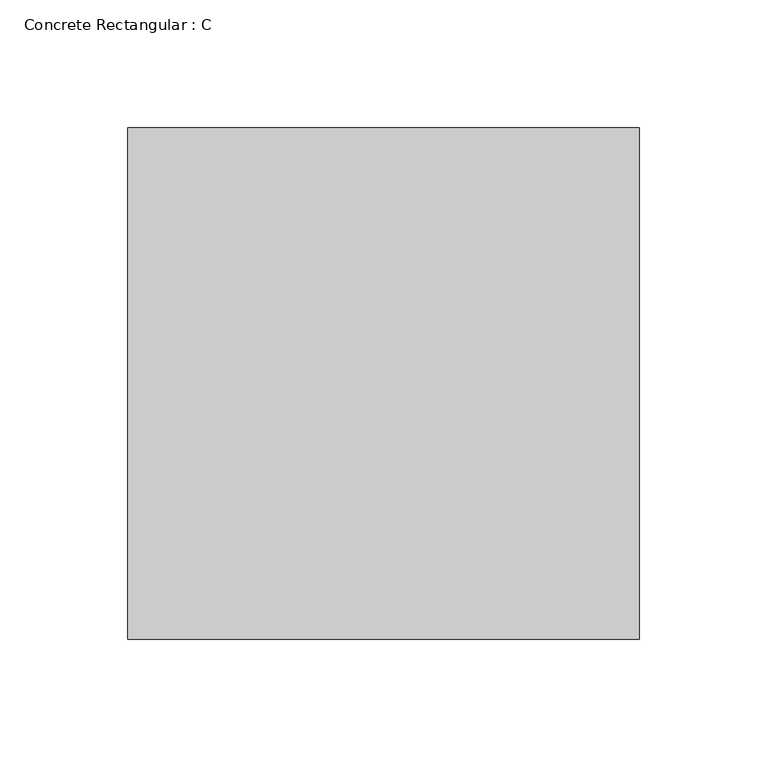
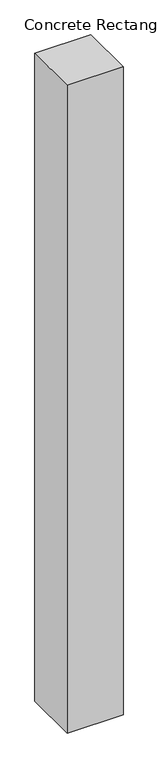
"""IFC4 building model written with IfcOpenShell, lengths in millimetres: column geometry, Concrete Rectangular : C."""

from ifc_helpers import new_model, si_unit, frame, origin, place, context, project, spatial, polyline, outline, extrude, source, transform, mapped, element, save


def concrete_rectangular_c_9a02abf1(model_context):
    return source(origin(), model_context, "Body", "SweptSolid", [
        extrude(outline(polyline([(100.0, -100.0), (-100.0, -100.0), (-100.0, 100.0), (100.0, 100.0), (100.0, -100.0)])), frame((0.0, 0.0, 600.0), z_axis=(0.0, 0.0, 1.0), x_axis=(1.0, 0.0, 0.0)), (0.0, 0.0, 1.0), 2450.0),
    ])


if __name__ == "__main__":
    model = new_model("IFC4")
    model_context = context("Model", 3, world=origin())
    ifc_project = project(units=[si_unit("LENGTHUNIT", "METRE", prefix="MILLI")], contexts=[model_context])
    site = spatial("IfcSite", under=ifc_project)
    building = spatial("IfcBuilding", under=site)
    placement = place(None, origin())
    concrete_rectangular_c_shape = concrete_rectangular_c_9a02abf1(model_context)
    element("IfcColumn", 1, ObjectType="Concrete Rectangular : C", at=placement, inside=building, context=model_context, shape_type="MappedRepresentation", body=[
        mapped(concrete_rectangular_c_shape, transform((0.0, 0.0, 0.0), x_axis=(1.0, 0.0, 0.0), y_axis=(0.0, 1.0, 0.0), z_axis=(0.0, 0.0, 1.0))),
    ])
    save(model, "model.ifc")
